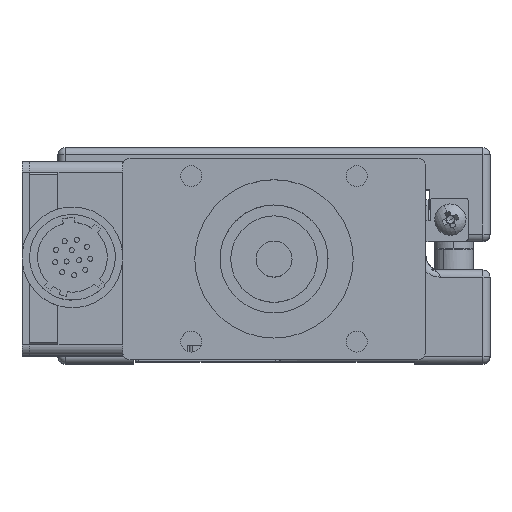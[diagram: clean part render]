
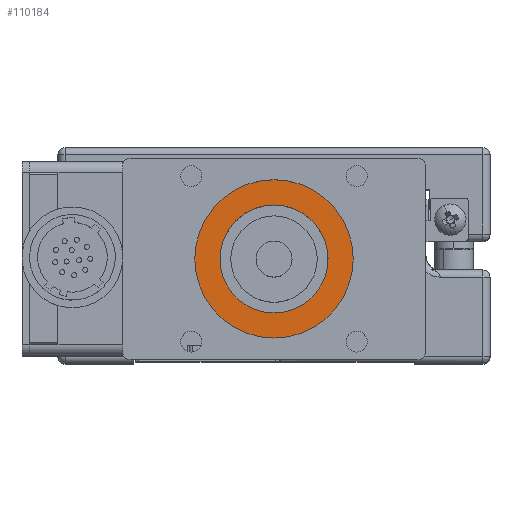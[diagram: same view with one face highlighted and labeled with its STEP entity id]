
A CAD part, top view. The second image highlights one B-rep face of the part: STEP entity #110184.
In plain terms, the highlighted planar face has unit normal (0, 0, 1).
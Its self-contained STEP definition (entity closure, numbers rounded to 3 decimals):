
#1135 = CIRCLE ( 'NONE', #41569, 7.5 ) ;
#1895 = AXIS2_PLACEMENT_3D ( 'NONE', #131785, #96803, #142181 ) ;
#5094 = EDGE_LOOP ( 'NONE', ( #142440, #14426 ) ) ;
#7806 = CARTESIAN_POINT ( 'NONE',  ( 0., 14.5, 18. ) ) ;
#9387 = EDGE_CURVE ( 'NONE', #108164, #110619, #146807, .T. ) ;
#11413 = FACE_OUTER_BOUND ( 'NONE', #5094, .T. ) ;
#14192 = VERTEX_POINT ( 'NONE', #38785 ) ;
#14426 = ORIENTED_EDGE ( 'NONE', *, *, #26193, .T. ) ;
#17810 = CIRCLE ( 'NONE', #101040, 11. ) ;
#26193 = EDGE_CURVE ( 'NONE', #14192, #44577, #17810, .T. ) ;
#34336 = CARTESIAN_POINT ( 'NONE',  ( 0., 14.5, 18. ) ) ;
#37547 = CIRCLE ( 'NONE', #1895, 11. ) ;
#37821 = EDGE_CURVE ( 'NONE', #44577, #14192, #37547, .T. ) ;
#38785 = CARTESIAN_POINT ( 'NONE',  ( -11., 14.5, 18. ) ) ;
#41569 = AXIS2_PLACEMENT_3D ( 'NONE', #7806, #87469, #78491 ) ;
#44577 = VERTEX_POINT ( 'NONE', #91296 ) ;
#46999 = DIRECTION ( 'NONE',  ( 1., 0., 0. ) ) ;
#47015 = EDGE_CURVE ( 'NONE', #110619, #108164, #1135, .T. ) ;
#61037 = AXIS2_PLACEMENT_3D ( 'NONE', #67288, #125316, #114147 ) ;
#67228 = ORIENTED_EDGE ( 'NONE', *, *, #47015, .T. ) ;
#67288 = CARTESIAN_POINT ( 'NONE',  ( 0., 14.5, 18. ) ) ;
#68023 = PLANE ( 'NONE',  #61037 ) ;
#70948 = ORIENTED_EDGE ( 'NONE', *, *, #9387, .T. ) ;
#78491 = DIRECTION ( 'NONE',  ( 1., 0., 0. ) ) ;
#87469 = DIRECTION ( 'NONE',  ( 0., 0., -1. ) ) ;
#91296 = CARTESIAN_POINT ( 'NONE',  ( 11., 14.5, 18. ) ) ;
#96803 = DIRECTION ( 'NONE',  ( 0., 0., 1. ) ) ;
#100344 = CARTESIAN_POINT ( 'NONE',  ( -7.5, 14.5, 18. ) ) ;
#101040 = AXIS2_PLACEMENT_3D ( 'NONE', #103224, #125604, #124863 ) ;
#103224 = CARTESIAN_POINT ( 'NONE',  ( 0., 14.5, 18. ) ) ;
#103501 = DIRECTION ( 'NONE',  ( 0., 0., -1. ) ) ;
#108164 = VERTEX_POINT ( 'NONE', #100344 ) ;
#110184 = ADVANCED_FACE ( 'NONE', ( #11413, #145412 ), #68023, .T. ) ;
#110619 = VERTEX_POINT ( 'NONE', #125131 ) ;
#114147 = DIRECTION ( 'NONE',  ( 1., 0., 0. ) ) ;
#123054 = AXIS2_PLACEMENT_3D ( 'NONE', #34336, #103501, #46999 ) ;
#124863 = DIRECTION ( 'NONE',  ( 1., 0., 0. ) ) ;
#125131 = CARTESIAN_POINT ( 'NONE',  ( 7.5, 14.5, 18. ) ) ;
#125316 = DIRECTION ( 'NONE',  ( 0., 0., 1. ) ) ;
#125604 = DIRECTION ( 'NONE',  ( 0., 0., 1. ) ) ;
#131785 = CARTESIAN_POINT ( 'NONE',  ( 0., 14.5, 18. ) ) ;
#138534 = EDGE_LOOP ( 'NONE', ( #67228, #70948 ) ) ;
#142181 = DIRECTION ( 'NONE',  ( 1., 0., 0. ) ) ;
#142440 = ORIENTED_EDGE ( 'NONE', *, *, #37821, .T. ) ;
#145412 = FACE_BOUND ( 'NONE', #138534, .T. ) ;
#146807 = CIRCLE ( 'NONE', #123054, 7.5 ) ;
